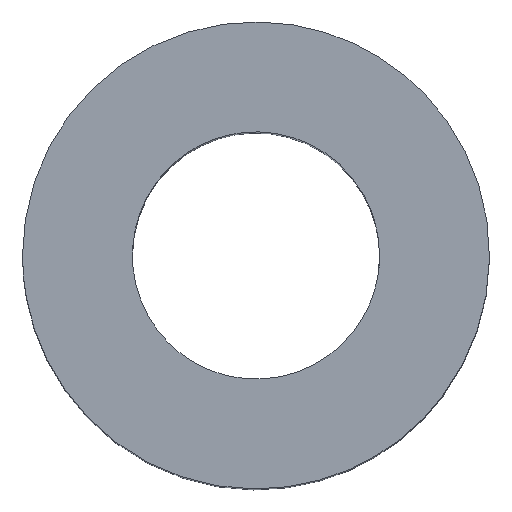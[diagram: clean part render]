
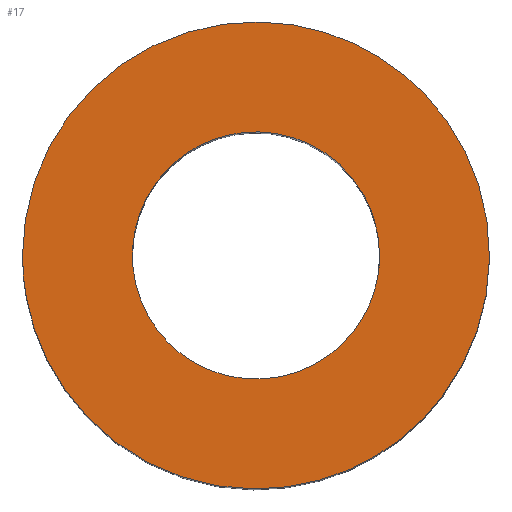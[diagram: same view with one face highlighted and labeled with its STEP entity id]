
A CAD part, top view. The second image highlights one B-rep face of the part: STEP entity #17.
In plain terms, the highlighted free-form (B-spline) face has degree [1, 1] with [2, 2] control points.
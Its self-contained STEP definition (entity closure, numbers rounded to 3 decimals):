
#17 = ADVANCED_FACE('',(#18,#32),#46,.T.);
#18 = FACE_BOUND('',#19,.T.);
#19 = EDGE_LOOP('',(#20));
#20 = ORIENTED_EDGE('',*,*,#21,.F.);
#21 = EDGE_CURVE('',#22,#22,#24,.T.);
#22 = VERTEX_POINT('',#23);
#23 = CARTESIAN_POINT('',(1.35,0.,6.5));
#24 = ( BOUNDED_CURVE() B_SPLINE_CURVE(2,(#25,#26,#27,#28,#29,#30,#31),
.UNSPECIFIED.,.T.,.F.) B_SPLINE_CURVE_WITH_KNOTS((1,2,2,2,2,1),(
    -2.094,0.,2.094,4.189,6.283,
8.378),.UNSPECIFIED.) CURVE() GEOMETRIC_REPRESENTATION_ITEM() 
RATIONAL_B_SPLINE_CURVE((1.,0.5,1.,0.5,1.,0.5,1.)) REPRESENTATION_ITEM(
  '') );
#25 = CARTESIAN_POINT('',(1.35,0.,6.5));
#26 = CARTESIAN_POINT('',(1.35,2.338,6.5));
#27 = CARTESIAN_POINT('',(-0.675,1.169,6.5));
#28 = CARTESIAN_POINT('',(-2.7,0.,6.5));
#29 = CARTESIAN_POINT('',(-0.675,-1.169,6.5));
#30 = CARTESIAN_POINT('',(1.35,-2.338,6.5));
#31 = CARTESIAN_POINT('',(1.35,0.,6.5));
#32 = FACE_BOUND('',#33,.T.);
#33 = EDGE_LOOP('',(#34));
#34 = ORIENTED_EDGE('',*,*,#35,.F.);
#35 = EDGE_CURVE('',#36,#36,#38,.T.);
#36 = VERTEX_POINT('',#37);
#37 = CARTESIAN_POINT('',(-2.55,0.,6.5));
#38 = ( BOUNDED_CURVE() B_SPLINE_CURVE(2,(#39,#40,#41,#42,#43,#44,#45),
.UNSPECIFIED.,.T.,.F.) B_SPLINE_CURVE_WITH_KNOTS((1,2,2,2,2,1),(
    -2.094,0.,2.094,4.189,6.283,
8.378),.UNSPECIFIED.) CURVE() GEOMETRIC_REPRESENTATION_ITEM() 
RATIONAL_B_SPLINE_CURVE((1.,0.5,1.,0.5,1.,0.5,1.)) REPRESENTATION_ITEM(
  '') );
#39 = CARTESIAN_POINT('',(-2.55,0.,6.5));
#40 = CARTESIAN_POINT('',(-2.55,4.417,6.5));
#41 = CARTESIAN_POINT('',(1.275,2.208,6.5));
#42 = CARTESIAN_POINT('',(5.1,0.,6.5));
#43 = CARTESIAN_POINT('',(1.275,-2.208,6.5));
#44 = CARTESIAN_POINT('',(-2.55,-4.417,6.5));
#45 = CARTESIAN_POINT('',(-2.55,0.,6.5));
#46 = B_SPLINE_SURFACE_WITH_KNOTS('',1,1,(
    (#47,#48)
    ,(#49,#50
    )),.UNSPECIFIED.,.F.,.F.,.F.,(2,2),(2,2),(0.,5.1),(-2.55,2.55),
  .PIECEWISE_BEZIER_KNOTS.);
#47 = CARTESIAN_POINT('',(-2.55,-2.55,6.5));
#48 = CARTESIAN_POINT('',(-2.55,2.55,6.5));
#49 = CARTESIAN_POINT('',(2.55,-2.55,6.5));
#50 = CARTESIAN_POINT('',(2.55,2.55,6.5));
